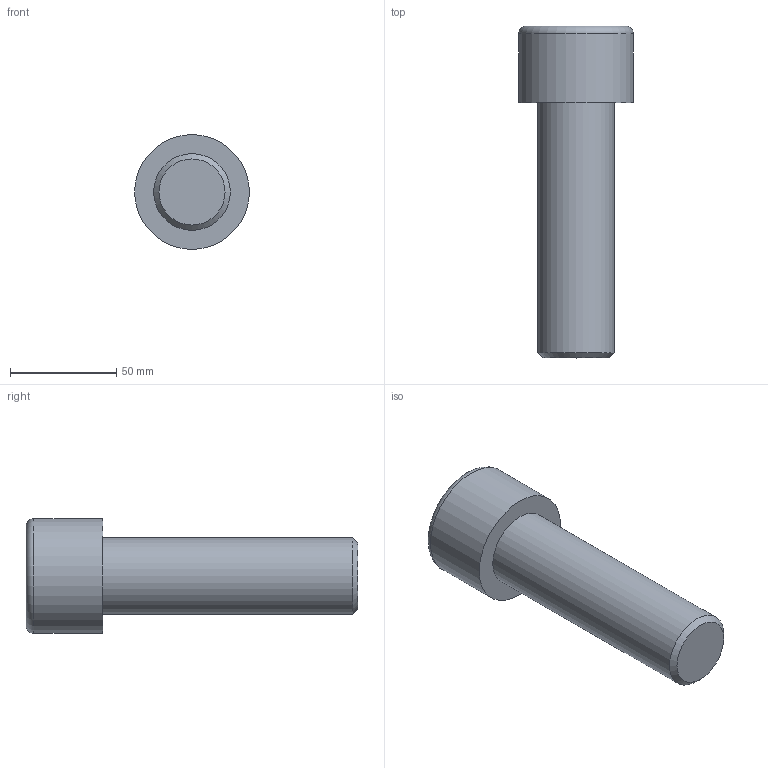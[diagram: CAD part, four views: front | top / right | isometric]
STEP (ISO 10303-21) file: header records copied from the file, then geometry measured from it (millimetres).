
FILE_DESCRIPTION(/* description */ (''),/* implementation_level */ '2;1');
FILE_NAME(/* name */ 'C:\Users\D\Documents\Inventor\各種小物\JIS\JIS B 1176 六角穴付きボルト\M36x120.stp',/* time_stamp */ '2022-05-09T19:04:05+09:00',/* author */ ('D'),/* organization */ (''),/* preprocessor_version */ 'ST-DEVELOPER v18',/* originating_system */ 'Autodesk Inventor 2020',/* authorisation */ '');
FILE_SCHEMA (('AUTOMOTIVE_DESIGN { 1 0 10303 214 3 1 1 }'));
Length unit declared in the file: millimetre
Products named in the file (1): M1.6x2.5
Bounding box: 54 x 156 x 54 mm (x, y, z)
Volume: 189588.5 mm3; surface area: 25770.2 mm2
Topology: 1 solids, 1 shells, 14 faces, 33 edges, 22 vertices
Faces by surface type: plane 9, cone 2, cylinder 2, torus 1
Full cylindrical faces by diameter (mm): 36 x1, 54 x1
Entity records: 435 total; most frequent: CARTESIAN_POINT 83, ORIENTED_EDGE 64, DIRECTION 64, EDGE_CURVE 32, AXIS2_PLACEMENT_3D 24, VERTEX_POINT 22, EDGE_LOOP 16, LINE 16
